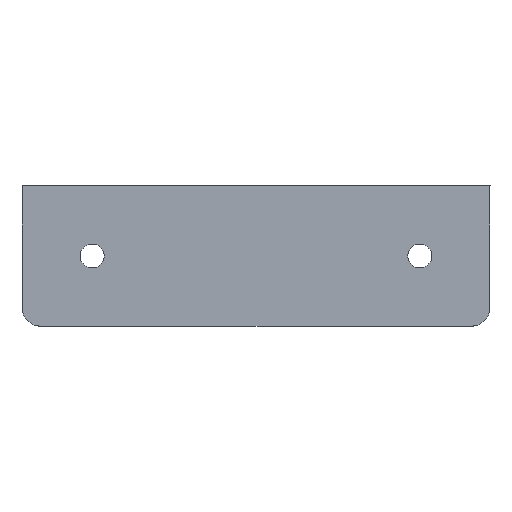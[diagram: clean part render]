
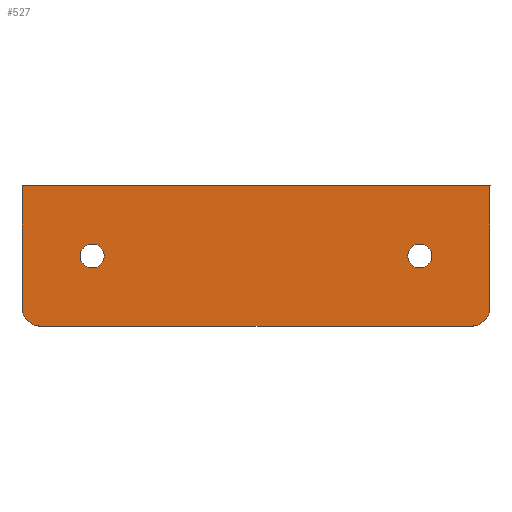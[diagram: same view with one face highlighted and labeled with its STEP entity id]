
A CAD part, top view. The second image highlights one B-rep face of the part: STEP entity #527.
In plain terms, the highlighted planar face has unit normal (0, 0, 1).
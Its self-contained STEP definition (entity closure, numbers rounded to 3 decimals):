
#242=CIRCLE('',#498,8.);
#244=CIRCLE('',#502,8.);
#247=CIRCLE('',#506,5.1);
#249=CIRCLE('',#509,5.1);
#290=ORIENTED_EDGE('',*,*,#363,.F.);
#291=ORIENTED_EDGE('',*,*,#351,.T.);
#292=ORIENTED_EDGE('',*,*,#344,.T.);
#293=ORIENTED_EDGE('',*,*,#355,.F.);
#294=ORIENTED_EDGE('',*,*,#358,.T.);
#295=ORIENTED_EDGE('',*,*,#346,.F.);
#296=ORIENTED_EDGE('',*,*,#353,.T.);
#297=ORIENTED_EDGE('',*,*,#361,.F.);
#300=VECTOR('',#400,1.);
#302=VECTOR('',#404,1.);
#307=VECTOR('',#411,1.);
#309=VECTOR('',#421,1.);
#314=LINE('',#453,#300);
#316=LINE('',#458,#302);
#321=LINE('',#468,#307);
#323=LINE('',#475,#309);
#328=VERTEX_POINT('',#450);
#329=VERTEX_POINT('',#452);
#330=VERTEX_POINT('',#456);
#331=VERTEX_POINT('',#457);
#335=VERTEX_POINT('',#467);
#336=VERTEX_POINT('',#474);
#339=VERTEX_POINT('',#485);
#341=VERTEX_POINT('',#490);
#344=EDGE_CURVE('',#329,#328,#314,.T.);
#346=EDGE_CURVE('',#330,#331,#316,.T.);
#351=EDGE_CURVE('',#335,#329,#321,.T.);
#353=EDGE_CURVE('',#330,#335,#242,.T.);
#355=EDGE_CURVE('',#336,#328,#323,.T.);
#358=EDGE_CURVE('',#336,#331,#244,.T.);
#361=EDGE_CURVE('',#339,#339,#247,.T.);
#363=EDGE_CURVE('',#341,#341,#249,.T.);
#377=EDGE_LOOP('',(#290));
#378=EDGE_LOOP('',(#291,#292,#293,#294,#295,#296));
#379=EDGE_LOOP('',(#297));
#393=FACE_BOUND('',#377,.T.);
#394=FACE_BOUND('',#378,.T.);
#395=FACE_BOUND('',#379,.T.);
#400=DIRECTION('',(-200.,0.,0.));
#404=DIRECTION('',(-184.,0.,0.));
#411=DIRECTION('',(0.,52.,0.));
#415=DIRECTION('',(0.,0.,1.));
#416=DIRECTION('',(0.,-8.,0.));
#421=DIRECTION('',(0.,52.,0.));
#426=DIRECTION('',(0.,0.,1.));
#427=DIRECTION('',(0.,-8.,0.));
#434=DIRECTION('',(0.,0.,1.));
#435=DIRECTION('',(0.,5.1,0.));
#440=DIRECTION('',(0.,0.,1.));
#441=DIRECTION('',(0.,5.1,0.));
#444=DIRECTION('',(0.,0.,1.));
#445=DIRECTION('',(0.,-1.,0.));
#450=CARTESIAN_POINT('',(0.,30.,4.));
#452=CARTESIAN_POINT('',(200.,30.,4.));
#453=CARTESIAN_POINT('',(200.,30.,4.));
#456=CARTESIAN_POINT('',(192.,-30.,4.));
#457=CARTESIAN_POINT('',(8.,-30.,4.));
#458=CARTESIAN_POINT('',(192.,-30.,4.));
#467=CARTESIAN_POINT('',(200.,-22.,4.));
#468=CARTESIAN_POINT('',(200.,-22.,4.));
#471=CARTESIAN_POINT('',(192.,-22.,4.));
#474=CARTESIAN_POINT('',(0.,-22.,4.));
#475=CARTESIAN_POINT('',(0.,-22.,4.));
#480=CARTESIAN_POINT('',(8.,-22.,4.));
#485=CARTESIAN_POINT('',(30.,5.1,4.));
#486=CARTESIAN_POINT('',(30.,0.,4.));
#490=CARTESIAN_POINT('',(170.,5.1,4.));
#491=CARTESIAN_POINT('',(170.,0.,4.));
#493=CARTESIAN_POINT('',(164.,0.,4.));
#498=AXIS2_PLACEMENT_3D('',#471,#415,#416);
#502=AXIS2_PLACEMENT_3D('',#480,#426,#427);
#506=AXIS2_PLACEMENT_3D('',#486,#434,#435);
#509=AXIS2_PLACEMENT_3D('',#491,#440,#441);
#511=AXIS2_PLACEMENT_3D('',#493,#444,#445);
#517=PLANE('',#511);
#527=ADVANCED_FACE('',(#393,#394,#395),#517,.T.);
